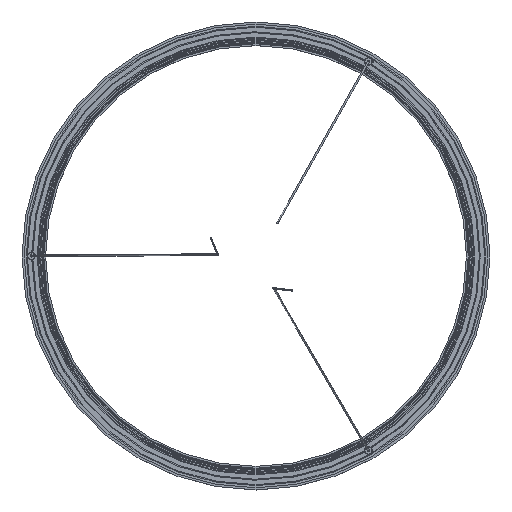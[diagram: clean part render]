
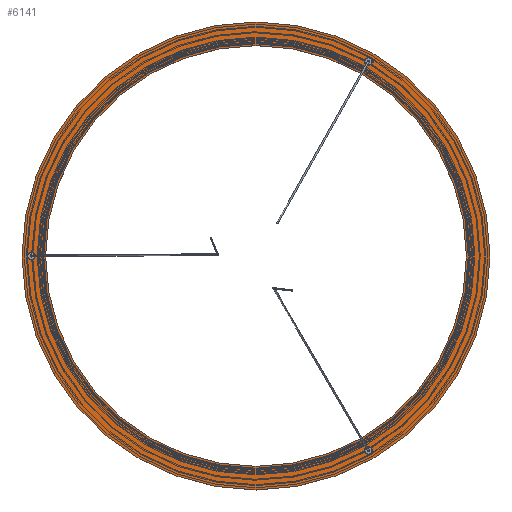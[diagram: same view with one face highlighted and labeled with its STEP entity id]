
A CAD part, top view. The second image highlights one B-rep face of the part: STEP entity #6141.
In plain terms, the highlighted planar face has unit normal (0, 0, 1).
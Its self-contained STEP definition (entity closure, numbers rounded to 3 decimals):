
#292=PLANE('',#6657);
#1474=ORIENTED_EDGE('',*,*,#2059,.T.);
#1475=ORIENTED_EDGE('',*,*,#2018,.T.);
#1476=ORIENTED_EDGE('',*,*,#1860,.T.);
#1477=ORIENTED_EDGE('',*,*,#2070,.F.);
#1478=ORIENTED_EDGE('',*,*,#2069,.T.);
#1860=EDGE_CURVE('',#2336,#2336,#2699,.T.);
#2018=EDGE_CURVE('',#2443,#2443,#2733,.T.);
#2059=EDGE_CURVE('',#2475,#2475,#2752,.T.);
#2069=EDGE_CURVE('',#2485,#2485,#2762,.T.);
#2070=EDGE_CURVE('',#2486,#2486,#2763,.T.);
#2336=VERTEX_POINT('',#8560);
#2443=VERTEX_POINT('',#9055);
#2475=VERTEX_POINT('',#9212);
#2485=VERTEX_POINT('',#9241);
#2486=VERTEX_POINT('',#9244);
#2699=CIRCLE('',#6480,5.7);
#2733=CIRCLE('',#6590,5.7);
#2752=CIRCLE('',#6635,5.7);
#2762=CIRCLE('',#6654,338.5);
#2763=CIRCLE('',#6656,376.5);
#3202=EDGE_LOOP('',(#1474));
#3203=EDGE_LOOP('',(#1475));
#3204=EDGE_LOOP('',(#1476));
#3205=EDGE_LOOP('',(#1477));
#3206=EDGE_LOOP('',(#1478));
#3699=FACE_BOUND('',#3202,.T.);
#3700=FACE_BOUND('',#3203,.T.);
#3701=FACE_BOUND('',#3204,.T.);
#3702=FACE_BOUND('',#3205,.T.);
#3703=FACE_BOUND('',#3206,.T.);
#6141=ADVANCED_FACE('',(#3699,#3700,#3701,#3702,#3703),#292,.F.);
#6480=AXIS2_PLACEMENT_3D('',#8559,#7332,#7333);
#6590=AXIS2_PLACEMENT_3D('',#9054,#7600,#7601);
#6635=AXIS2_PLACEMENT_3D('',#9211,#7702,#7703);
#6654=AXIS2_PLACEMENT_3D('',#9240,#7740,#7741);
#6656=AXIS2_PLACEMENT_3D('',#9243,#7744,#7745);
#6657=AXIS2_PLACEMENT_3D('',#9245,#7746,#7747);
#7332=DIRECTION('',(0.,0.,-1.));
#7333=DIRECTION('',(-1.,0.,0.));
#7600=DIRECTION('',(0.,0.,-1.));
#7601=DIRECTION('',(-0.419,-0.908,0.));
#7702=DIRECTION('',(0.,0.,-1.));
#7703=DIRECTION('',(-1.,0.,0.));
#7740=DIRECTION('',(0.,0.,-1.));
#7741=DIRECTION('',(-1.,0.,0.));
#7744=DIRECTION('',(0.,0.,-1.));
#7745=DIRECTION('',(-1.,0.,0.));
#7746=DIRECTION('',(0.,0.,-1.));
#7747=DIRECTION('',(-1.,0.,0.));
#8559=CARTESIAN_POINT('',(180.75,-313.068,18.5));
#8560=CARTESIAN_POINT('',(175.05,-313.068,18.5));
#9054=CARTESIAN_POINT('',(-361.5,0.,18.5));
#9055=CARTESIAN_POINT('',(-363.888,-5.175,18.5));
#9211=CARTESIAN_POINT('',(180.75,313.068,18.5));
#9212=CARTESIAN_POINT('',(175.05,313.068,18.5));
#9240=CARTESIAN_POINT('',(0.,0.,18.5));
#9241=CARTESIAN_POINT('',(-338.5,0.,18.5));
#9243=CARTESIAN_POINT('',(0.,0.,18.5));
#9244=CARTESIAN_POINT('',(-376.5,0.,18.5));
#9245=CARTESIAN_POINT('',(-338.5,0.,18.5));
